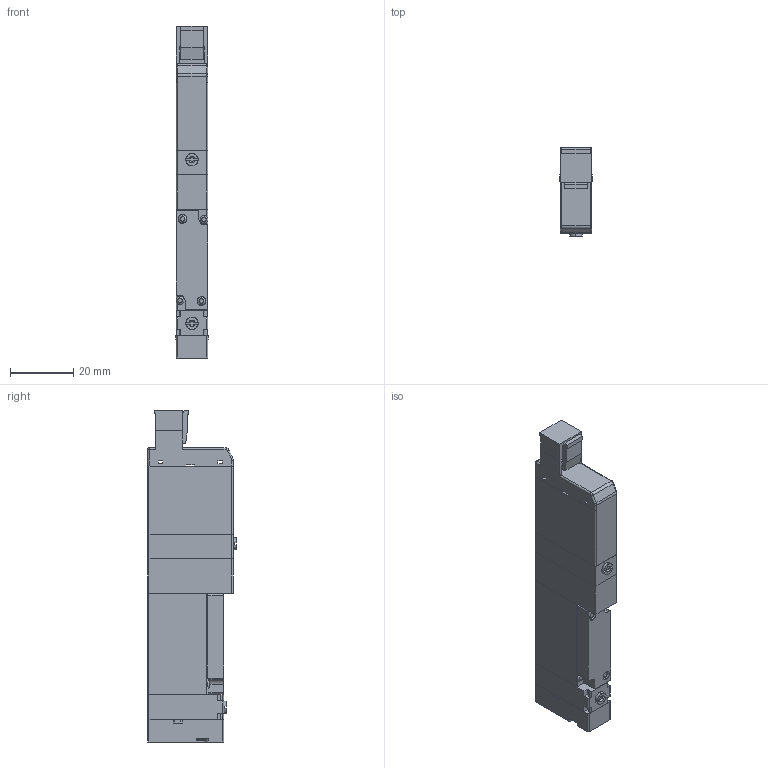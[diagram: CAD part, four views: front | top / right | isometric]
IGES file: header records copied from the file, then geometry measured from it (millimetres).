
Start section: ------------------------------------------------------------------------
Global section: file name: D:\ICADMX\tmp\trans3d_spg\CVICAD02.18204.F10T2-A1-PS_8673.igs; native system: spGate; preprocessor: ver12.6.6; author: Unknown; organization: Unknown; date: 200901.142458; units: millimetre
Bounding box: 10.2 x 28 x 105 mm (x, y, z)
Volume: 24270.3 mm3; surface area: 11420 mm2
Topology: 7 solids, 7 shells, 275 faces, 712 edges, 464 vertices
Faces by surface type: bspline 275
